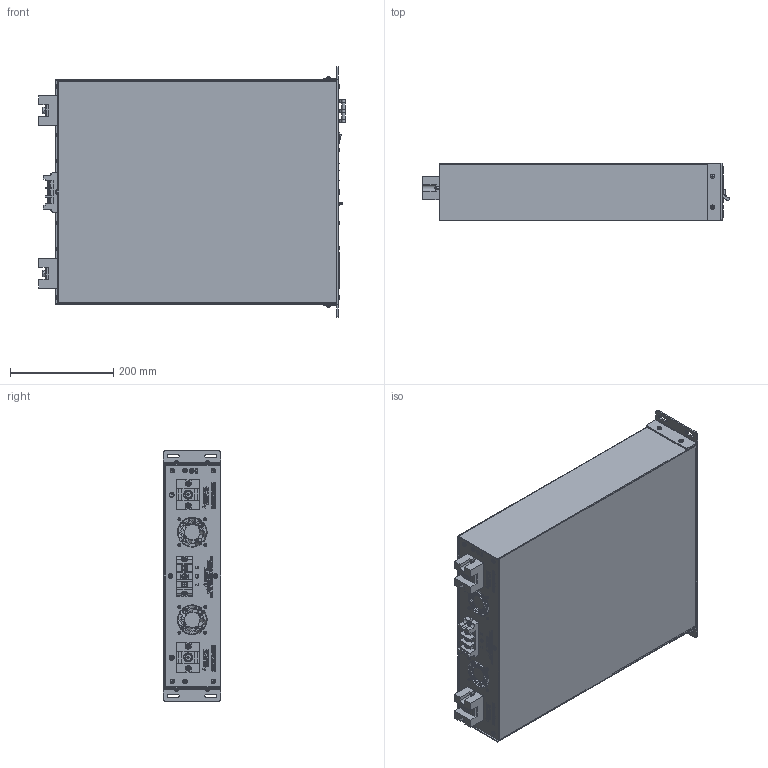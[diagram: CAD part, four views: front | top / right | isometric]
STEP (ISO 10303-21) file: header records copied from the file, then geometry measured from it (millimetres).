
FILE_DESCRIPTION(/* description */ (''),/* implementation_level */ '2;1');
FILE_NAME(/* name */ 'H:\03_충전기_전기종\3000W 충전기\2021.02.09_3000W 충전기.stp',/* time_stamp */ '2021-02-09T17:57:52+09:00',/* author */ ('jjang'),/* organization */ (''),/* preprocessor_version */ 'ST-DEVELOPER v18.1',/* originating_system */ 'Autodesk Inventor 2021',/* authorisation */ '');
FILE_SCHEMA (('AUTOMOTIVE_DESIGN { 1 0 10303 214 3 1 1 }'));
Products named in the file (1): 2021.02.08_3000W 충전기_Shrinkwrap_1
Bounding box: 595.37 x 111 x 487 mm (x, y, z)
Volume: 1881210.2 mm3; surface area: 1608772.6 mm2
Topology: 17 solids, 17 shells, 9906 faces, 26909 edges, 17838 vertices
Faces by surface type: plane 5399, bspline 3403, cylinder 885, torus 127, sphere 58, cone 34
Full cylindrical faces by diameter (mm): 0.1 x3, 0.8 x4, 0.9 x4, 3.2 x12, 3.8 x28, 3.9 x1, 4 x3, 4.3 x8, 4.4 x2, 5 x31, 5.2 x8, 5.5 x19, 5.6 x18, 5.636 x6, 6 x5, 6.5 x2, 8.8 x22, 9.8 x6, 10 x2, 10.286 x3, 10.5 x3, 12 x2, 17.437 x2, 25.4 x2, 55.4 x2
Entity records: 354521 total; most frequent: CARTESIAN_POINT 117218, ORIENTED_EDGE 53782, DIRECTION 34782, EDGE_CURVE 26891, VERTEX_POINT 17838, LINE 16876, VECTOR 16876, EDGE_LOOP 10881
